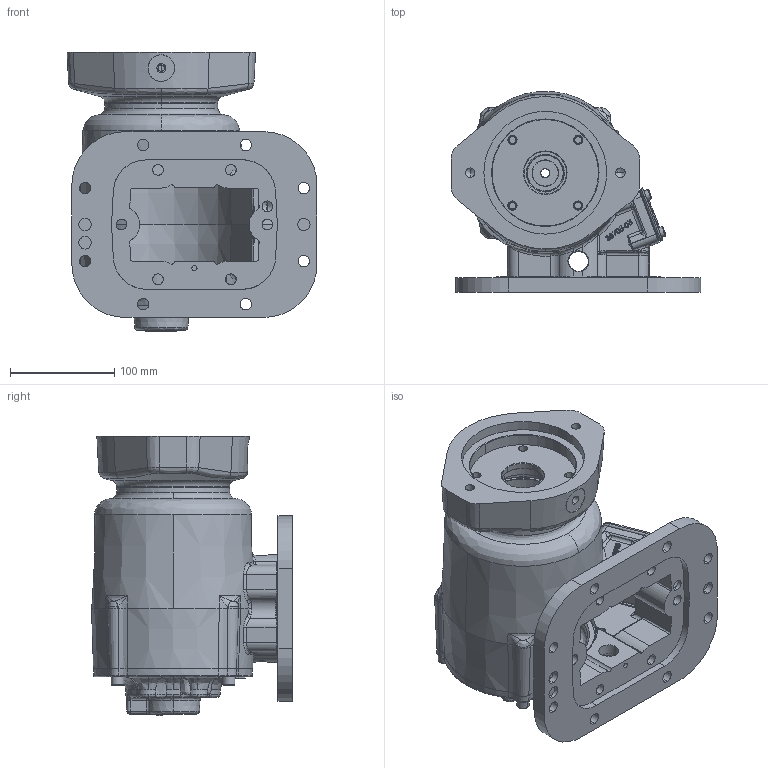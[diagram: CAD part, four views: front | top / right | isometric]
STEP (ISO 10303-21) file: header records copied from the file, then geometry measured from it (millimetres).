
FILE_DESCRIPTION (( 'STEP AP203' ), '1' );
FILE_NAME ('CS8S-XXXXX-E3LX.STEP', '2023-05-03T17:57:44', ( '' ), ( '' ), 'SwSTEP 2.0', 'SolidWorks 2021', '' );
FILE_SCHEMA (( 'CONFIG_CONTROL_DESIGN' ));
Length unit declared in the file: inch
Products named in the file (7): 15T36717; 19T41118; 16T41119; CS8S-XXXXX-E3LX; 19T35237; 01t37075a; 14T40714
Assembly tree (12 placements, depth 2):
  CS8S-XXXXX-E3LX
    01t37075a
    15T36717
    16T41119
    19T41118  x4
    19T35237  x4
    14T40714
Bounding box: 239.37 x 192.11 x 267.73 mm (x, y, z)
Volume: 1894116 mm3; surface area: 446535.8 mm2
Topology: 12 solids, 12 shells, 2001 faces, 5192 edges, 3268 vertices
Faces by surface type: bspline 905, plane 445, cylinder 417, cone 220, torus 14
Entity records: 147141 total; most frequent: CARTESIAN_POINT 107484, ORIENTED_EDGE 9672, DIRECTION 5202, EDGE_CURVE 4836, VERTEX_POINT 3082, B_SPLINE_CURVE_WITH_KNOTS 2288, EDGE_LOOP 2070, ADVANCED_FACE 1869
